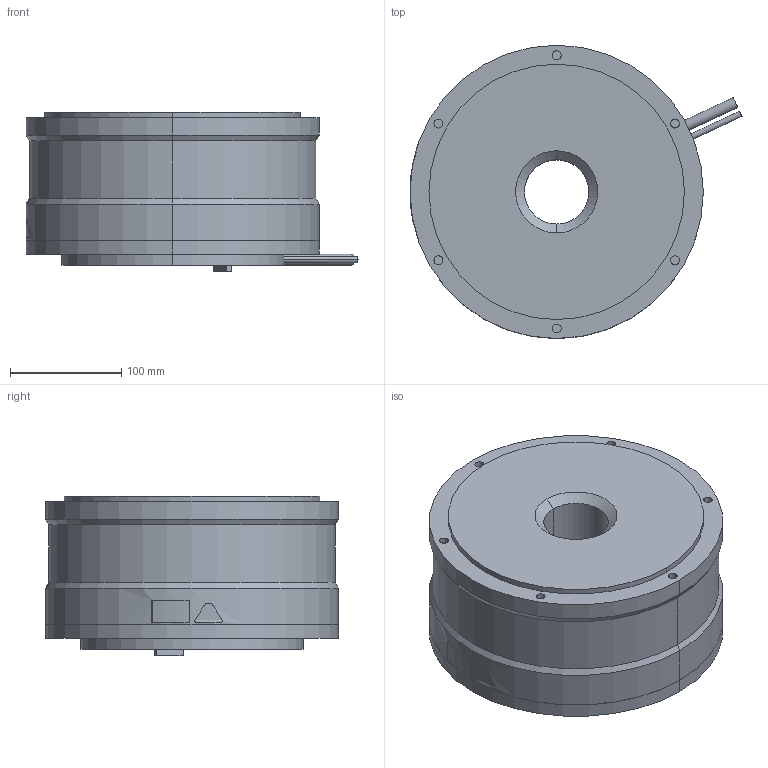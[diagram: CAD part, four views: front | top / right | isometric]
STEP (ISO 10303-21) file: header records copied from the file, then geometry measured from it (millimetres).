
FILE_DESCRIPTION (( 'STEP AP203' ), '1' );
FILE_NAME ('sgm7d_58f_c4_.STEP', '2016-02-22T07:07:32', ( '' ), ( '' ), 'SwSTEP 2.0', 'SolidWorks 2010', '' );
FILE_SCHEMA (( 'CONFIG_CONTROL_DESIGN' ));
Length unit declared in the file: millimetre
Products named in the file (1): sgm7d_58f_c4_
Bounding box: 298.93 x 264 x 144 mm (x, y, z)
Volume: 6721903.3 mm3; surface area: 256116.7 mm2
Topology: 3 solids, 3 shells, 203 faces, 432 edges, 282 vertices
Faces by surface type: cylinder 122, plane 70, cone 6, bspline 5
Entity records: 5969 total; most frequent: CARTESIAN_POINT 1295, DIRECTION 1066, ORIENTED_EDGE 864, AXIS2_PLACEMENT_3D 455, EDGE_CURVE 432, VERTEX_POINT 282, CIRCLE 256, EDGE_LOOP 252
